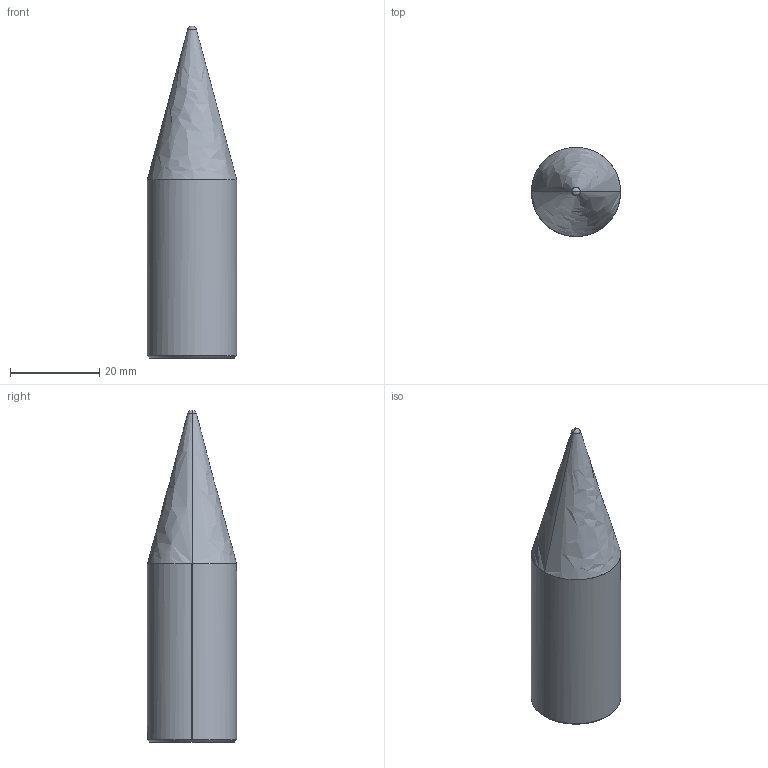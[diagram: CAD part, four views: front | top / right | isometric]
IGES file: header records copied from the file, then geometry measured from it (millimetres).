
Global section: file name: E:\UnigraphicsGraphicData\MISUMI_PRESS-PARTS\IGES\3d_snst20-b40_03115_r00.igs; native system: NX V5.0; preprocessor: UGS NX IGES V5.0; author: MISUMI; date: 20110105.162853; units: millimetre
Bounding box: 20 x 19.97 x 74.46 mm (x, y, z)
Surface area: 4418.9 mm2 (no closed solid volume)
Topology: 0 solids, 0 shells, 12 faces, 64 edges, 62 vertices
Faces by surface type: bspline 12
